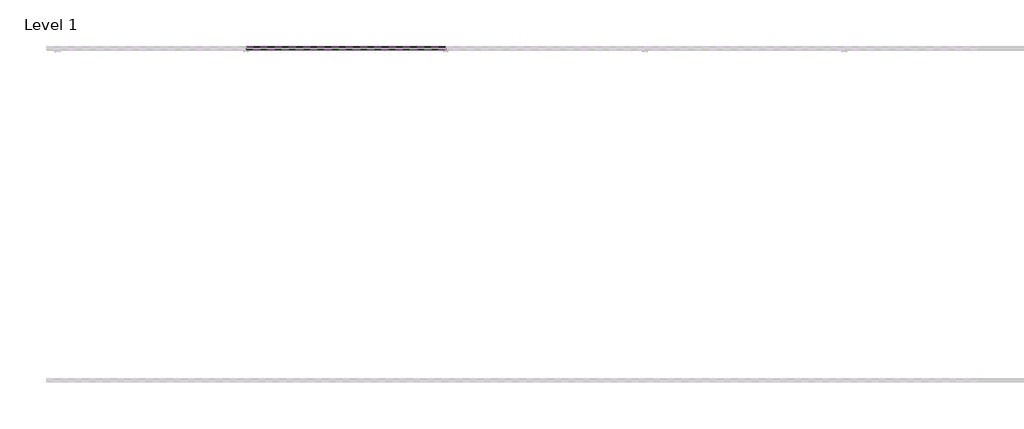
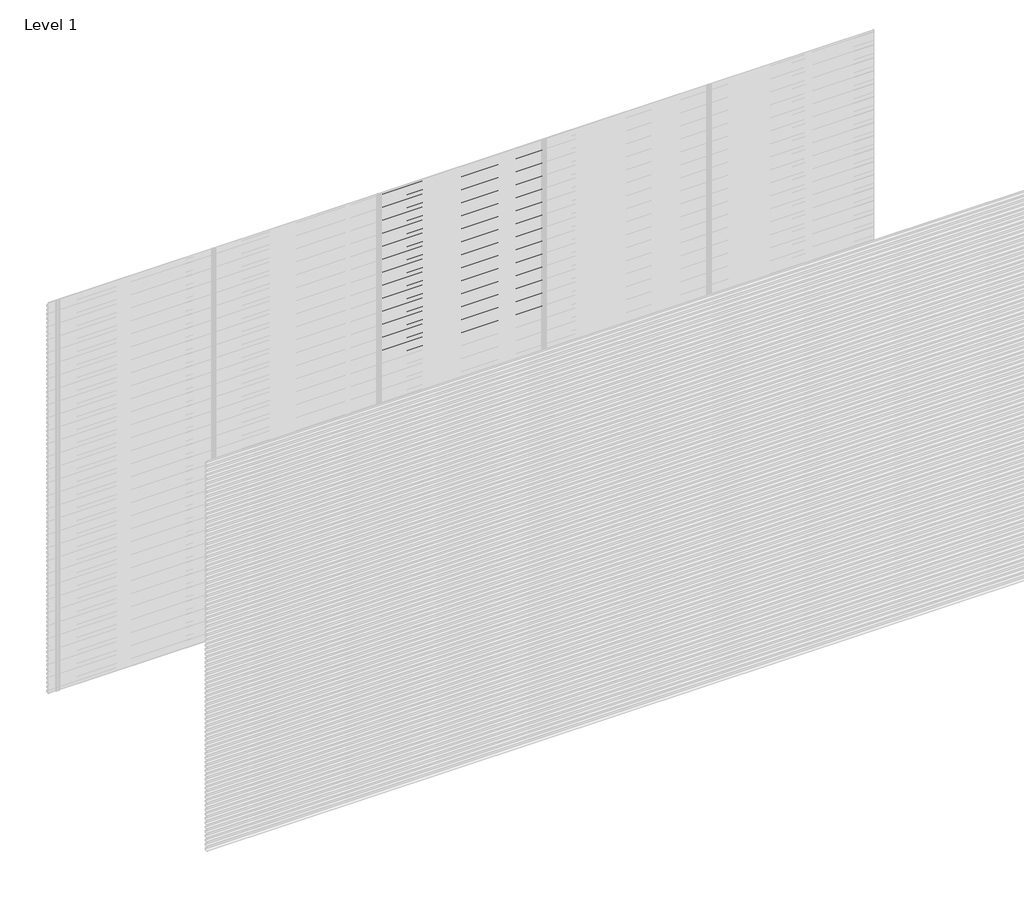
# One storey, part 74 of 77: 78 proxies.
"""IFC4 building model written with IfcOpenShell, lengths in millimetres."""

from ifc_helpers import new_model, si_unit, frame, origin, place, context, project, spatial, polyline, outline, extrude, element, save

model = new_model("IFC4")

# Units and contexts
model_context = context("Model", 3, world=origin())
ifc_project = project(units=[si_unit("LENGTHUNIT", "METRE", prefix="MILLI")], contexts=[model_context])

# Site, building, storey
site = spatial("IfcSite", under=ifc_project)
building = spatial("IfcBuilding", under=site)
storey = spatial("IfcBuildingStorey", under=building, Name="Level 1", Elevation=0.0)

# Proxies
placement = place(None, origin())
element("IfcBuildingElementProxy", 1, Name="Wall Sweeps", at=placement, inside=storey, context=model_context, shape_type="SweptSolid", body=[
    extrude(outline(polyline([(21.4, 1274.2359887), (2.0, 1285.4366691), (2.0, 1298.7), (3.0, 1298.7), (3.0, 1286.0191057), (22.4, 1274.8185105), (22.4, 1261.2185105), (21.4, 1262.7953129), (21.4, 1268.6032062), (4.0226183, 1260.5), (3.6, 1261.4063078), (21.4, 1269.7065841), (21.4, 1274.2359887)])), frame((1200.0, 0.0, 0.0), z_axis=(1.0, 0.0, 0.0), x_axis=(0.0, 1.0, 0.0)), (0.0, 0.0, 1.0), 1200.0),
])
element("IfcBuildingElementProxy", 2, Name="Wall Sweeps", at=placement, inside=storey, context=model_context, shape_type="SweptSolid", body=[
    extrude(outline(polyline([(21.4, 1240.9359887), (2.0, 1252.1366691), (2.0, 1265.4), (3.0, 1265.4), (3.0, 1252.7191057), (22.4, 1241.5185105), (22.4, 1227.9185105), (21.4, 1229.4953129), (21.4, 1235.3032062), (4.0226183, 1227.2), (3.6, 1228.1063078), (21.4, 1236.4065841), (21.4, 1240.9359887)])), frame((1200.0, 0.0, 0.0), z_axis=(1.0, 0.0, 0.0), x_axis=(0.0, 1.0, 0.0)), (0.0, 0.0, 1.0), 1200.0),
])
element("IfcBuildingElementProxy", 3, Name="Wall Sweeps", at=placement, inside=storey, context=model_context, shape_type="SweptSolid", body=[
    extrude(outline(polyline([(21.4, 1207.6359887), (2.0, 1218.8366691), (2.0, 1232.1), (3.0, 1232.1), (3.0, 1219.4191057), (22.4, 1208.2185105), (22.4, 1194.6185105), (21.4, 1196.1953129), (21.4, 1202.0032062), (4.0226183, 1193.9), (3.6, 1194.8063078), (21.4, 1203.1065841), (21.4, 1207.6359887)])), frame((1200.0, 0.0, 0.0), z_axis=(1.0, 0.0, 0.0), x_axis=(0.0, 1.0, 0.0)), (0.0, 0.0, 1.0), 1200.0),
])
element("IfcBuildingElementProxy", 4, Name="Wall Sweeps", at=placement, inside=storey, context=model_context, shape_type="SweptSolid", body=[
    extrude(outline(polyline([(21.4, 1174.3359887), (2.0, 1185.5366691), (2.0, 1198.8), (3.0, 1198.8), (3.0, 1186.1191057), (22.4, 1174.9185105), (22.4, 1161.3185105), (21.4, 1162.8953129), (21.4, 1168.7032062), (4.0226183, 1160.6), (3.6, 1161.5063078), (21.4, 1169.8065841), (21.4, 1174.3359887)])), frame((1200.0, 0.0, 0.0), z_axis=(1.0, 0.0, 0.0), x_axis=(0.0, 1.0, 0.0)), (0.0, 0.0, 1.0), 1200.0),
])
element("IfcBuildingElementProxy", 5, Name="Wall Sweeps", at=placement, inside=storey, context=model_context, shape_type="SweptSolid", body=[
    extrude(outline(polyline([(21.4, 1141.0359887), (2.0, 1152.2366691), (2.0, 1165.5), (3.0, 1165.5), (3.0, 1152.8191057), (22.4, 1141.6185105), (22.4, 1128.0185105), (21.4, 1129.5953129), (21.4, 1135.4032062), (4.0226183, 1127.3), (3.6, 1128.2063078), (21.4, 1136.5065841), (21.4, 1141.0359887)])), frame((1200.0, 0.0, 0.0), z_axis=(1.0, 0.0, 0.0), x_axis=(0.0, 1.0, 0.0)), (0.0, 0.0, 1.0), 1200.0),
])
element("IfcBuildingElementProxy", 6, Name="Wall Sweeps", at=placement, inside=storey, context=model_context, shape_type="SweptSolid", body=[
    extrude(outline(polyline([(21.4, 1107.7359887), (2.0, 1118.9366691), (2.0, 1132.2), (3.0, 1132.2), (3.0, 1119.5191057), (22.4, 1108.3185105), (22.4, 1094.7185105), (21.4, 1096.2953129), (21.4, 1102.1032062), (4.0226183, 1094.0), (3.6, 1094.9063078), (21.4, 1103.2065841), (21.4, 1107.7359887)])), frame((1200.0, 0.0, 0.0), z_axis=(1.0, 0.0, 0.0), x_axis=(0.0, 1.0, 0.0)), (0.0, 0.0, 1.0), 1200.0),
])
element("IfcBuildingElementProxy", 7, Name="Wall Sweeps", at=placement, inside=storey, context=model_context, shape_type="SweptSolid", body=[
    extrude(outline(polyline([(21.4, 1074.4359887), (2.0, 1085.6366691), (2.0, 1098.9), (3.0, 1098.9), (3.0, 1086.2191057), (22.4, 1075.0185105), (22.4, 1061.4185105), (21.4, 1062.9953129), (21.4, 1068.8032062), (4.0226183, 1060.7), (3.6, 1061.6063078), (21.4, 1069.9065841), (21.4, 1074.4359887)])), frame((1200.0, 0.0, 0.0), z_axis=(1.0, 0.0, 0.0), x_axis=(0.0, 1.0, 0.0)), (0.0, 0.0, 1.0), 1200.0),
])
element("IfcBuildingElementProxy", 8, Name="Wall Sweeps", at=placement, inside=storey, context=model_context, shape_type="SweptSolid", body=[
    extrude(outline(polyline([(21.4, 1041.1359887), (2.0, 1052.3366691), (2.0, 1065.6), (3.0, 1065.6), (3.0, 1052.9191057), (22.4, 1041.7185105), (22.4, 1028.1185105), (21.4, 1029.6953129), (21.4, 1035.5032062), (4.0226183, 1027.4), (3.6, 1028.3063078), (21.4, 1036.6065841), (21.4, 1041.1359887)])), frame((1200.0, 0.0, 0.0), z_axis=(1.0, 0.0, 0.0), x_axis=(0.0, 1.0, 0.0)), (0.0, 0.0, 1.0), 1200.0),
])
element("IfcBuildingElementProxy", 9, Name="Wall Sweeps", at=placement, inside=storey, context=model_context, shape_type="SweptSolid", body=[
    extrude(outline(polyline([(21.4, 1007.8359887), (2.0, 1019.0366691), (2.0, 1032.3), (3.0, 1032.3), (3.0, 1019.6191057), (22.4, 1008.4185105), (22.4, 994.8185105), (21.4, 996.3953129), (21.4, 1002.2032062), (4.0226183, 994.1), (3.6, 995.0063078), (21.4, 1003.3065841), (21.4, 1007.8359887)])), frame((1200.0, 0.0, 0.0), z_axis=(1.0, 0.0, 0.0), x_axis=(0.0, 1.0, 0.0)), (0.0, 0.0, 1.0), 1200.0),
])
element("IfcBuildingElementProxy", 10, Name="Wall Sweeps", at=placement, inside=storey, context=model_context, shape_type="SweptSolid", body=[
    extrude(outline(polyline([(21.4, 974.5359887), (2.0, 985.7366691), (2.0, 999.0), (3.0, 999.0), (3.0, 986.3191057), (22.4, 975.1185105), (22.4, 961.5185105), (21.4, 963.0953129), (21.4, 968.9032062), (4.0226183, 960.8), (3.6, 961.7063078), (21.4, 970.0065841), (21.4, 974.5359887)])), frame((1200.0, 0.0, 0.0), z_axis=(1.0, 0.0, 0.0), x_axis=(0.0, 1.0, 0.0)), (0.0, 0.0, 1.0), 1200.0),
])
element("IfcBuildingElementProxy", 11, Name="Wall Sweeps", at=placement, inside=storey, context=model_context, shape_type="SweptSolid", body=[
    extrude(outline(polyline([(21.4, 941.2359887), (2.0, 952.4366691), (2.0, 965.7), (3.0, 965.7), (3.0, 953.0191057), (22.4, 941.8185105), (22.4, 928.2185105), (21.4, 929.7953129), (21.4, 935.6032062), (4.0226183, 927.5), (3.6, 928.4063078), (21.4, 936.7065841), (21.4, 941.2359887)])), frame((1200.0, 0.0, 0.0), z_axis=(1.0, 0.0, 0.0), x_axis=(0.0, 1.0, 0.0)), (0.0, 0.0, 1.0), 1200.0),
])
element("IfcBuildingElementProxy", 12, Name="Wall Sweeps", at=placement, inside=storey, context=model_context, shape_type="SweptSolid", body=[
    extrude(outline(polyline([(21.4, 907.9359887), (2.0, 919.1366691), (2.0, 932.4), (3.0, 932.4), (3.0, 919.7191057), (22.4, 908.5185105), (22.4, 894.9185105), (21.4, 896.4953129), (21.4, 902.3032062), (4.0226183, 894.2), (3.6, 895.1063078), (21.4, 903.4065841), (21.4, 907.9359887)])), frame((1200.0, 0.0, 0.0), z_axis=(1.0, 0.0, 0.0), x_axis=(0.0, 1.0, 0.0)), (0.0, 0.0, 1.0), 1200.0),
])
element("IfcBuildingElementProxy", 13, Name="Wall Sweeps", at=placement, inside=storey, context=model_context, shape_type="SweptSolid", body=[
    extrude(outline(polyline([(21.4, 874.6359887), (2.0, 885.8366691), (2.0, 899.1), (3.0, 899.1), (3.0, 886.4191057), (22.4, 875.2185105), (22.4, 861.6185105), (21.4, 863.1953129), (21.4, 869.0032062), (4.0226183, 860.9), (3.6, 861.8063078), (21.4, 870.1065841), (21.4, 874.6359887)])), frame((1200.0, 0.0, 0.0), z_axis=(1.0, 0.0, 0.0), x_axis=(0.0, 1.0, 0.0)), (0.0, 0.0, 1.0), 1200.0),
])
element("IfcBuildingElementProxy", 14, Name="Wall Sweeps", at=placement, inside=storey, context=model_context, shape_type="SweptSolid", body=[
    extrude(outline(polyline([(21.4, 841.3359887), (2.0, 852.5366691), (2.0, 865.8), (3.0, 865.8), (3.0, 853.1191057), (22.4, 841.9185105), (22.4, 828.3185105), (21.4, 829.8953129), (21.4, 835.7032062), (4.0226183, 827.6), (3.6, 828.5063078), (21.4, 836.8065841), (21.4, 841.3359887)])), frame((1200.0, 0.0, 0.0), z_axis=(1.0, 0.0, 0.0), x_axis=(0.0, 1.0, 0.0)), (0.0, 0.0, 1.0), 1200.0),
])
element("IfcBuildingElementProxy", 15, Name="Wall Sweeps", at=placement, inside=storey, context=model_context, shape_type="SweptSolid", body=[
    extrude(outline(polyline([(21.4, 808.0359887), (2.0, 819.2366691), (2.0, 832.5), (3.0, 832.5), (3.0, 819.8191057), (22.4, 808.6185105), (22.4, 795.0185105), (21.4, 796.5953129), (21.4, 802.4032062), (4.0226183, 794.3), (3.6, 795.2063078), (21.4, 803.5065841), (21.4, 808.0359887)])), frame((1200.0, 0.0, 0.0), z_axis=(1.0, 0.0, 0.0), x_axis=(0.0, 1.0, 0.0)), (0.0, 0.0, 1.0), 1200.0),
])
element("IfcBuildingElementProxy", 16, Name="Wall Sweeps", at=placement, inside=storey, context=model_context, shape_type="SweptSolid", body=[
    extrude(outline(polyline([(21.4, 774.7359887), (2.0, 785.9366691), (2.0, 799.2), (3.0, 799.2), (3.0, 786.5191057), (22.4, 775.3185105), (22.4, 761.7185105), (21.4, 763.2953129), (21.4, 769.1032062), (4.0226183, 761.0), (3.6, 761.9063078), (21.4, 770.2065841), (21.4, 774.7359887)])), frame((1200.0, 0.0, 0.0), z_axis=(1.0, 0.0, 0.0), x_axis=(0.0, 1.0, 0.0)), (0.0, 0.0, 1.0), 1200.0),
])
element("IfcBuildingElementProxy", 17, Name="Wall Sweeps", at=placement, inside=storey, context=model_context, shape_type="SweptSolid", body=[
    extrude(outline(polyline([(21.4, 741.4359887), (2.0, 752.6366691), (2.0, 765.9), (3.0, 765.9), (3.0, 753.2191057), (22.4, 742.0185105), (22.4, 728.4185105), (21.4, 729.9953129), (21.4, 735.8032062), (4.0226183, 727.7), (3.6, 728.6063078), (21.4, 736.9065841), (21.4, 741.4359887)])), frame((1200.0, 0.0, 0.0), z_axis=(1.0, 0.0, 0.0), x_axis=(0.0, 1.0, 0.0)), (0.0, 0.0, 1.0), 1200.0),
])
element("IfcBuildingElementProxy", 18, Name="Wall Sweeps", at=placement, inside=storey, context=model_context, shape_type="SweptSolid", body=[
    extrude(outline(polyline([(21.4, 708.1359887), (2.0, 719.3366691), (2.0, 732.6), (3.0, 732.6), (3.0, 719.9191057), (22.4, 708.7185105), (22.4, 695.1185105), (21.4, 696.6953129), (21.4, 702.5032062), (4.0226183, 694.4), (3.6, 695.3063078), (21.4, 703.6065841), (21.4, 708.1359887)])), frame((1200.0, 0.0, 0.0), z_axis=(1.0, 0.0, 0.0), x_axis=(0.0, 1.0, 0.0)), (0.0, 0.0, 1.0), 1200.0),
])
element("IfcBuildingElementProxy", 19, Name="Wall Sweeps", at=placement, inside=storey, context=model_context, shape_type="SweptSolid", body=[
    extrude(outline(polyline([(21.4, 674.8359887), (2.0, 686.0366691), (2.0, 699.3), (3.0, 699.3), (3.0, 686.6191057), (22.4, 675.4185105), (22.4, 661.8185105), (21.4, 663.3953129), (21.4, 669.2032062), (4.0226183, 661.1), (3.6, 662.0063078), (21.4, 670.3065841), (21.4, 674.8359887)])), frame((1200.0, 0.0, 0.0), z_axis=(1.0, 0.0, 0.0), x_axis=(0.0, 1.0, 0.0)), (0.0, 0.0, 1.0), 1200.0),
])
element("IfcBuildingElementProxy", 20, Name="Wall Sweeps", at=placement, inside=storey, context=model_context, shape_type="SweptSolid", body=[
    extrude(outline(polyline([(21.4, 641.5359887), (2.0, 652.7366691), (2.0, 666.0), (3.0, 666.0), (3.0, 653.3191057), (22.4, 642.1185105), (22.4, 628.5185105), (21.4, 630.0953129), (21.4, 635.9032062), (4.0226183, 627.8), (3.6, 628.7063078), (21.4, 637.0065841), (21.4, 641.5359887)])), frame((1200.0, 0.0, 0.0), z_axis=(1.0, 0.0, 0.0), x_axis=(0.0, 1.0, 0.0)), (0.0, 0.0, 1.0), 1200.0),
])
element("IfcBuildingElementProxy", 21, Name="Wall Sweeps", at=placement, inside=storey, context=model_context, shape_type="SweptSolid", body=[
    extrude(outline(polyline([(21.4, 608.2359887), (2.0, 619.4366691), (2.0, 632.7), (3.0, 632.7), (3.0, 620.0191057), (22.4, 608.8185105), (22.4, 595.2185105), (21.4, 596.7953129), (21.4, 602.6032062), (4.0226183, 594.5), (3.6, 595.4063078), (21.4, 603.7065841), (21.4, 608.2359887)])), frame((1200.0, 0.0, 0.0), z_axis=(1.0, 0.0, 0.0), x_axis=(0.0, 1.0, 0.0)), (0.0, 0.0, 1.0), 1200.0),
])
element("IfcBuildingElementProxy", 22, Name="Wall Sweeps", at=placement, inside=storey, context=model_context, shape_type="SweptSolid", body=[
    extrude(outline(polyline([(21.4, 574.9359887), (2.0, 586.1366691), (2.0, 599.4), (3.0, 599.4), (3.0, 586.7191057), (22.4, 575.5185105), (22.4, 561.9185105), (21.4, 563.4953129), (21.4, 569.3032062), (4.0226183, 561.2), (3.6, 562.1063078), (21.4, 570.4065841), (21.4, 574.9359887)])), frame((1200.0, 0.0, 0.0), z_axis=(1.0, 0.0, 0.0), x_axis=(0.0, 1.0, 0.0)), (0.0, 0.0, 1.0), 1200.0),
])
element("IfcBuildingElementProxy", 23, Name="Wall Sweeps", at=placement, inside=storey, context=model_context, shape_type="SweptSolid", body=[
    extrude(outline(polyline([(21.4, 541.6359887), (2.0, 552.8366691), (2.0, 566.1), (3.0, 566.1), (3.0, 553.4191057), (22.4, 542.2185105), (22.4, 528.6185105), (21.4, 530.1953129), (21.4, 536.0032062), (4.0226183, 527.9), (3.6, 528.8063078), (21.4, 537.1065841), (21.4, 541.6359887)])), frame((1200.0, 0.0, 0.0), z_axis=(1.0, 0.0, 0.0), x_axis=(0.0, 1.0, 0.0)), (0.0, 0.0, 1.0), 1200.0),
])
element("IfcBuildingElementProxy", 24, Name="Wall Sweeps", at=placement, inside=storey, context=model_context, shape_type="SweptSolid", body=[
    extrude(outline(polyline([(21.4, 508.3359887), (2.0, 519.5366691), (2.0, 532.8), (3.0, 532.8), (3.0, 520.1191057), (22.4, 508.9185105), (22.4, 495.3185105), (21.4, 496.8953129), (21.4, 502.7032062), (4.0226183, 494.6), (3.6, 495.5063078), (21.4, 503.8065841), (21.4, 508.3359887)])), frame((1200.0, 0.0, 0.0), z_axis=(1.0, 0.0, 0.0), x_axis=(0.0, 1.0, 0.0)), (0.0, 0.0, 1.0), 1200.0),
])
element("IfcBuildingElementProxy", 25, Name="Wall Sweeps", at=placement, inside=storey, context=model_context, shape_type="SweptSolid", body=[
    extrude(outline(polyline([(21.4, 475.0359887), (2.0, 486.2366691), (2.0, 499.5), (3.0, 499.5), (3.0, 486.8191057), (22.4, 475.6185105), (22.4, 462.0185105), (21.4, 463.5953129), (21.4, 469.4032062), (4.0226183, 461.3), (3.6, 462.2063078), (21.4, 470.5065841), (21.4, 475.0359887)])), frame((1200.0, 0.0, 0.0), z_axis=(1.0, 0.0, 0.0), x_axis=(0.0, 1.0, 0.0)), (0.0, 0.0, 1.0), 1200.0),
])
element("IfcBuildingElementProxy", 26, Name="Wall Sweeps", at=placement, inside=storey, context=model_context, shape_type="SweptSolid", body=[
    extrude(outline(polyline([(21.4, 441.7359887), (2.0, 452.9366691), (2.0, 466.2), (3.0, 466.2), (3.0, 453.5191057), (22.4, 442.3185105), (22.4, 428.7185105), (21.4, 430.2953129), (21.4, 436.1032062), (4.0226183, 428.0), (3.6, 428.9063078), (21.4, 437.2065841), (21.4, 441.7359887)])), frame((1200.0, 0.0, 0.0), z_axis=(1.0, 0.0, 0.0), x_axis=(0.0, 1.0, 0.0)), (0.0, 0.0, 1.0), 1200.0),
])
element("IfcBuildingElementProxy", 27, Name="Wall Sweeps", at=placement, inside=storey, context=model_context, shape_type="SweptSolid", body=[
    extrude(outline(polyline([(21.4, 408.4359887), (2.0, 419.6366691), (2.0, 432.9), (3.0, 432.9), (3.0, 420.2191057), (22.4, 409.0185105), (22.4, 395.4185105), (21.4, 396.9953129), (21.4, 402.8032062), (4.0226183, 394.7), (3.6, 395.6063078), (21.4, 403.9065841), (21.4, 408.4359887)])), frame((1200.0, 0.0, 0.0), z_axis=(1.0, 0.0, 0.0), x_axis=(0.0, 1.0, 0.0)), (0.0, 0.0, 1.0), 1200.0),
])
element("IfcBuildingElementProxy", 28, Name="Wall Sweeps", at=placement, inside=storey, context=model_context, shape_type="SweptSolid", body=[
    extrude(outline(polyline([(21.4, 375.1359887), (2.0, 386.3366691), (2.0, 399.6), (3.0, 399.6), (3.0, 386.9191057), (22.4, 375.7185105), (22.4, 362.1185105), (21.4, 363.6953129), (21.4, 369.5032062), (4.0226183, 361.4), (3.6, 362.3063078), (21.4, 370.6065841), (21.4, 375.1359887)])), frame((1200.0, 0.0, 0.0), z_axis=(1.0, 0.0, 0.0), x_axis=(0.0, 1.0, 0.0)), (0.0, 0.0, 1.0), 1200.0),
])
element("IfcBuildingElementProxy", 29, Name="Wall Sweeps", at=placement, inside=storey, context=model_context, shape_type="SweptSolid", body=[
    extrude(outline(polyline([(21.4, 341.8359887), (2.0, 353.0366691), (2.0, 366.3), (3.0, 366.3), (3.0, 353.6191057), (22.4, 342.4185105), (22.4, 328.8185105), (21.4, 330.3953129), (21.4, 336.2032062), (4.0226183, 328.1), (3.6, 329.0063078), (21.4, 337.3065841), (21.4, 341.8359887)])), frame((1200.0, 0.0, 0.0), z_axis=(1.0, 0.0, 0.0), x_axis=(0.0, 1.0, 0.0)), (0.0, 0.0, 1.0), 1200.0),
])
element("IfcBuildingElementProxy", 30, Name="Wall Sweeps", at=placement, inside=storey, context=model_context, shape_type="SweptSolid", body=[
    extrude(outline(polyline([(21.4, 308.5359887), (2.0, 319.7366691), (2.0, 333.0), (3.0, 333.0), (3.0, 320.3191057), (22.4, 309.1185105), (22.4, 295.5185105), (21.4, 297.0953129), (21.4, 302.9032062), (4.0226183, 294.8), (3.6, 295.7063078), (21.4, 304.0065841), (21.4, 308.5359887)])), frame((1200.0, 0.0, 0.0), z_axis=(1.0, 0.0, 0.0), x_axis=(0.0, 1.0, 0.0)), (0.0, 0.0, 1.0), 1200.0),
])
element("IfcBuildingElementProxy", 31, Name="Wall Sweeps", at=placement, inside=storey, context=model_context, shape_type="SweptSolid", body=[
    extrude(outline(polyline([(21.4, 275.2359887), (2.0, 286.4366691), (2.0, 299.7), (3.0, 299.7), (3.0, 287.0191057), (22.4, 275.8185105), (22.4, 262.2185105), (21.4, 263.7953129), (21.4, 269.6032062), (4.0226183, 261.5), (3.6, 262.4063078), (21.4, 270.7065841), (21.4, 275.2359887)])), frame((1200.0, 0.0, 0.0), z_axis=(1.0, 0.0, 0.0), x_axis=(0.0, 1.0, 0.0)), (0.0, 0.0, 1.0), 1200.0),
])
element("IfcBuildingElementProxy", 32, Name="Wall Sweeps", at=placement, inside=storey, context=model_context, shape_type="SweptSolid", body=[
    extrude(outline(polyline([(21.4, 241.9359887), (2.0, 253.1366691), (2.0, 266.4), (3.0, 266.4), (3.0, 253.7191057), (22.4, 242.5185105), (22.4, 228.9185105), (21.4, 230.4953129), (21.4, 236.3032062), (4.0226183, 228.2), (3.6, 229.1063078), (21.4, 237.4065841), (21.4, 241.9359887)])), frame((1200.0, 0.0, 0.0), z_axis=(1.0, 0.0, 0.0), x_axis=(0.0, 1.0, 0.0)), (0.0, 0.0, 1.0), 1200.0),
])
element("IfcBuildingElementProxy", 33, Name="Wall Sweeps", at=placement, inside=storey, context=model_context, shape_type="SweptSolid", body=[
    extrude(outline(polyline([(21.4, 208.6359887), (2.0, 219.8366691), (2.0, 233.1), (3.0, 233.1), (3.0, 220.4191057), (22.4, 209.2185105), (22.4, 195.6185105), (21.4, 197.1953129), (21.4, 203.0032062), (4.0226183, 194.9), (3.6, 195.8063078), (21.4, 204.1065841), (21.4, 208.6359887)])), frame((1200.0, 0.0, 0.0), z_axis=(1.0, 0.0, 0.0), x_axis=(0.0, 1.0, 0.0)), (0.0, 0.0, 1.0), 1200.0),
])
element("IfcBuildingElementProxy", 34, Name="Wall Sweeps", at=placement, inside=storey, context=model_context, shape_type="SweptSolid", body=[
    extrude(outline(polyline([(21.4, 175.3359887), (2.0, 186.5366691), (2.0, 199.8), (3.0, 199.8), (3.0, 187.1191057), (22.4, 175.9185105), (22.4, 162.3185105), (21.4, 163.8953129), (21.4, 169.7032062), (4.0226183, 161.6), (3.6, 162.5063078), (21.4, 170.8065841), (21.4, 175.3359887)])), frame((1200.0, 0.0, 0.0), z_axis=(1.0, 0.0, 0.0), x_axis=(0.0, 1.0, 0.0)), (0.0, 0.0, 1.0), 1200.0),
])
element("IfcBuildingElementProxy", 35, Name="Wall Sweeps", at=placement, inside=storey, context=model_context, shape_type="SweptSolid", body=[
    extrude(outline(polyline([(21.4, 142.0359887), (2.0, 153.2366691), (2.0, 166.5), (3.0, 166.5), (3.0, 153.8191057), (22.4, 142.6185105), (22.4, 129.0185105), (21.4, 130.5953129), (21.4, 136.4032062), (4.0226183, 128.3), (3.6, 129.2063078), (21.4, 137.5065841), (21.4, 142.0359887)])), frame((1200.0, 0.0, 0.0), z_axis=(1.0, 0.0, 0.0), x_axis=(0.0, 1.0, 0.0)), (0.0, 0.0, 1.0), 1200.0),
])
element("IfcBuildingElementProxy", 36, Name="Wall Sweeps", at=placement, inside=storey, context=model_context, shape_type="SweptSolid", body=[
    extrude(outline(polyline([(21.4, 108.7359887), (2.0, 119.9366691), (2.0, 133.2), (3.0, 133.2), (3.0, 120.5191057), (22.4, 109.3185105), (22.4, 95.7185105), (21.4, 97.2953129), (21.4, 103.1032062), (4.0226183, 95.0), (3.6, 95.9063078), (21.4, 104.2065841), (21.4, 108.7359887)])), frame((1200.0, 0.0, 0.0), z_axis=(1.0, 0.0, 0.0), x_axis=(0.0, 1.0, 0.0)), (0.0, 0.0, 1.0), 1200.0),
])
element("IfcBuildingElementProxy", 37, Name="Wall Sweeps", at=placement, inside=storey, context=model_context, shape_type="SweptSolid", body=[
    extrude(outline(polyline([(21.4, 75.4359887), (2.0, 86.6366691), (2.0, 99.9), (3.0, 99.9), (3.0, 87.2191057), (22.4, 76.0185105), (22.4, 62.4185105), (21.4, 63.9953129), (21.4, 69.8032062), (4.0226183, 61.7), (3.6, 62.6063078), (21.4, 70.9065841), (21.4, 75.4359887)])), frame((1200.0, 0.0, 0.0), z_axis=(1.0, 0.0, 0.0), x_axis=(0.0, 1.0, 0.0)), (0.0, 0.0, 1.0), 1200.0),
])
element("IfcBuildingElementProxy", 38, Name="Wall Sweeps", at=placement, inside=storey, context=model_context, shape_type="SweptSolid", body=[
    extrude(outline(polyline([(21.4, 42.1359887), (2.0, 53.3366691), (2.0, 66.6), (3.0, 66.6), (3.0, 53.9191057), (22.4, 42.7185105), (22.4, 29.1185105), (21.4, 30.6953129), (21.4, 36.5032062), (4.0226183, 28.4), (3.6, 29.3063078), (21.4, 37.6065841), (21.4, 42.1359887)])), frame((1200.0, 0.0, 0.0), z_axis=(1.0, 0.0, 0.0), x_axis=(0.0, 1.0, 0.0)), (0.0, 0.0, 1.0), 1200.0),
])
element("IfcBuildingElementProxy", 39, Name="Wall Sweeps", at=placement, inside=storey, context=model_context, shape_type="SweptSolid", body=[
    extrude(outline(polyline([(21.4, 8.8359887), (2.0, 20.0366691), (2.0, 33.3), (3.0, 33.3), (3.0, 20.6191057), (22.4, 9.4185105), (22.4, -4.1814895), (21.4, -2.6046871), (21.4, 3.2032062), (4.0226183, -4.9), (3.6, -3.9936922), (21.4, 4.3065841), (21.4, 8.8359887)])), frame((1200.0, 0.0, 0.0), z_axis=(1.0, 0.0, 0.0), x_axis=(0.0, 1.0, 0.0)), (0.0, 0.0, 1.0), 1200.0),
])
element("IfcBuildingElementProxy", 40, Name="Wall Sweeps", at=placement, inside=storey, context=model_context, shape_type="SweptSolid", body=[
    extrude(outline(polyline([(21.4, 2972.5359887), (2.0, 2983.7366691), (2.0, 2997.0), (3.0, 2997.0), (3.0, 2984.3191057), (22.4, 2973.1185105), (22.4, 2959.5185105), (21.4, 2961.0953129), (21.4, 2966.9032062), (4.0226183, 2958.8), (3.6, 2959.7063078), (21.4, 2968.0065841), (21.4, 2972.5359887)])), frame((2400.0, 0.0, 0.0), z_axis=(1.0, 0.0, 0.0), x_axis=(0.0, 1.0, 0.0)), (0.0, 0.0, 1.0), 1200.0),
])
element("IfcBuildingElementProxy", 41, Name="Wall Sweeps", at=placement, inside=storey, context=model_context, shape_type="SweptSolid", body=[
    extrude(outline(polyline([(21.4, 2939.2359887), (2.0, 2950.4366691), (2.0, 2963.7), (3.0, 2963.7), (3.0, 2951.0191057), (22.4, 2939.8185105), (22.4, 2926.2185105), (21.4, 2927.7953129), (21.4, 2933.6032062), (4.0226183, 2925.5), (3.6, 2926.4063078), (21.4, 2934.7065841), (21.4, 2939.2359887)])), frame((2400.0, 0.0, 0.0), z_axis=(1.0, 0.0, 0.0), x_axis=(0.0, 1.0, 0.0)), (0.0, 0.0, 1.0), 1200.0),
])
element("IfcBuildingElementProxy", 42, Name="Wall Sweeps", at=placement, inside=storey, context=model_context, shape_type="SweptSolid", body=[
    extrude(outline(polyline([(21.4, 2905.9359887), (2.0, 2917.1366691), (2.0, 2930.4), (3.0, 2930.4), (3.0, 2917.7191057), (22.4, 2906.5185105), (22.4, 2892.9185105), (21.4, 2894.4953129), (21.4, 2900.3032062), (4.0226183, 2892.2), (3.6, 2893.1063078), (21.4, 2901.4065841), (21.4, 2905.9359887)])), frame((2400.0, 0.0, 0.0), z_axis=(1.0, 0.0, 0.0), x_axis=(0.0, 1.0, 0.0)), (0.0, 0.0, 1.0), 1200.0),
])
element("IfcBuildingElementProxy", 43, Name="Wall Sweeps", at=placement, inside=storey, context=model_context, shape_type="SweptSolid", body=[
    extrude(outline(polyline([(21.4, 2872.6359887), (2.0, 2883.8366691), (2.0, 2897.1), (3.0, 2897.1), (3.0, 2884.4191057), (22.4, 2873.2185105), (22.4, 2859.6185105), (21.4, 2861.1953129), (21.4, 2867.0032062), (4.0226183, 2858.9), (3.6, 2859.8063078), (21.4, 2868.1065841), (21.4, 2872.6359887)])), frame((2400.0, 0.0, 0.0), z_axis=(1.0, 0.0, 0.0), x_axis=(0.0, 1.0, 0.0)), (0.0, 0.0, 1.0), 1200.0),
])
element("IfcBuildingElementProxy", 44, Name="Wall Sweeps", at=placement, inside=storey, context=model_context, shape_type="SweptSolid", body=[
    extrude(outline(polyline([(21.4, 2839.3359887), (2.0, 2850.5366691), (2.0, 2863.8), (3.0, 2863.8), (3.0, 2851.1191057), (22.4, 2839.9185105), (22.4, 2826.3185105), (21.4, 2827.8953129), (21.4, 2833.7032062), (4.0226183, 2825.6), (3.6, 2826.5063078), (21.4, 2834.8065841), (21.4, 2839.3359887)])), frame((2400.0, 0.0, 0.0), z_axis=(1.0, 0.0, 0.0), x_axis=(0.0, 1.0, 0.0)), (0.0, 0.0, 1.0), 1200.0),
])
element("IfcBuildingElementProxy", 45, Name="Wall Sweeps", at=placement, inside=storey, context=model_context, shape_type="SweptSolid", body=[
    extrude(outline(polyline([(21.4, 2806.0359887), (2.0, 2817.2366691), (2.0, 2830.5), (3.0, 2830.5), (3.0, 2817.8191057), (22.4, 2806.6185105), (22.4, 2793.0185105), (21.4, 2794.5953129), (21.4, 2800.4032062), (4.0226183, 2792.3), (3.6, 2793.2063078), (21.4, 2801.5065841), (21.4, 2806.0359887)])), frame((2400.0, 0.0, 0.0), z_axis=(1.0, 0.0, 0.0), x_axis=(0.0, 1.0, 0.0)), (0.0, 0.0, 1.0), 1200.0),
])
element("IfcBuildingElementProxy", 46, Name="Wall Sweeps", at=placement, inside=storey, context=model_context, shape_type="SweptSolid", body=[
    extrude(outline(polyline([(21.4, 2772.7359887), (2.0, 2783.9366691), (2.0, 2797.2), (3.0, 2797.2), (3.0, 2784.5191057), (22.4, 2773.3185105), (22.4, 2759.7185105), (21.4, 2761.2953129), (21.4, 2767.1032062), (4.0226183, 2759.0), (3.6, 2759.9063078), (21.4, 2768.2065841), (21.4, 2772.7359887)])), frame((2400.0, 0.0, 0.0), z_axis=(1.0, 0.0, 0.0), x_axis=(0.0, 1.0, 0.0)), (0.0, 0.0, 1.0), 1200.0),
])
element("IfcBuildingElementProxy", 47, Name="Wall Sweeps", at=placement, inside=storey, context=model_context, shape_type="SweptSolid", body=[
    extrude(outline(polyline([(21.4, 2739.4359887), (2.0, 2750.6366691), (2.0, 2763.9), (3.0, 2763.9), (3.0, 2751.2191057), (22.4, 2740.0185105), (22.4, 2726.4185105), (21.4, 2727.9953129), (21.4, 2733.8032062), (4.0226183, 2725.7), (3.6, 2726.6063078), (21.4, 2734.9065841), (21.4, 2739.4359887)])), frame((2400.0, 0.0, 0.0), z_axis=(1.0, 0.0, 0.0), x_axis=(0.0, 1.0, 0.0)), (0.0, 0.0, 1.0), 1200.0),
])
element("IfcBuildingElementProxy", 48, Name="Wall Sweeps", at=placement, inside=storey, context=model_context, shape_type="SweptSolid", body=[
    extrude(outline(polyline([(21.4, 2706.1359887), (2.0, 2717.3366691), (2.0, 2730.6), (3.0, 2730.6), (3.0, 2717.9191057), (22.4, 2706.7185105), (22.4, 2693.1185105), (21.4, 2694.6953129), (21.4, 2700.5032062), (4.0226183, 2692.4), (3.6, 2693.3063078), (21.4, 2701.6065841), (21.4, 2706.1359887)])), frame((2400.0, 0.0, 0.0), z_axis=(1.0, 0.0, 0.0), x_axis=(0.0, 1.0, 0.0)), (0.0, 0.0, 1.0), 1200.0),
])
element("IfcBuildingElementProxy", 49, Name="Wall Sweeps", at=placement, inside=storey, context=model_context, shape_type="SweptSolid", body=[
    extrude(outline(polyline([(21.4, 2672.8359887), (2.0, 2684.0366691), (2.0, 2697.3), (3.0, 2697.3), (3.0, 2684.6191057), (22.4, 2673.4185105), (22.4, 2659.8185105), (21.4, 2661.3953129), (21.4, 2667.2032062), (4.0226183, 2659.1), (3.6, 2660.0063078), (21.4, 2668.3065841), (21.4, 2672.8359887)])), frame((2400.0, 0.0, 0.0), z_axis=(1.0, 0.0, 0.0), x_axis=(0.0, 1.0, 0.0)), (0.0, 0.0, 1.0), 1200.0),
])
element("IfcBuildingElementProxy", 50, Name="Wall Sweeps", at=placement, inside=storey, context=model_context, shape_type="SweptSolid", body=[
    extrude(outline(polyline([(21.4, 2639.5359887), (2.0, 2650.7366691), (2.0, 2664.0), (3.0, 2664.0), (3.0, 2651.3191057), (22.4, 2640.1185105), (22.4, 2626.5185105), (21.4, 2628.0953129), (21.4, 2633.9032062), (4.0226183, 2625.8), (3.6, 2626.7063078), (21.4, 2635.0065841), (21.4, 2639.5359887)])), frame((2400.0, 0.0, 0.0), z_axis=(1.0, 0.0, 0.0), x_axis=(0.0, 1.0, 0.0)), (0.0, 0.0, 1.0), 1200.0),
])
element("IfcBuildingElementProxy", 51, Name="Wall Sweeps", at=placement, inside=storey, context=model_context, shape_type="SweptSolid", body=[
    extrude(outline(polyline([(21.4, 2606.2359887), (2.0, 2617.4366691), (2.0, 2630.7), (3.0, 2630.7), (3.0, 2618.0191057), (22.4, 2606.8185105), (22.4, 2593.2185105), (21.4, 2594.7953129), (21.4, 2600.6032062), (4.0226183, 2592.5), (3.6, 2593.4063078), (21.4, 2601.7065841), (21.4, 2606.2359887)])), frame((2400.0, 0.0, 0.0), z_axis=(1.0, 0.0, 0.0), x_axis=(0.0, 1.0, 0.0)), (0.0, 0.0, 1.0), 1200.0),
])
element("IfcBuildingElementProxy", 52, Name="Wall Sweeps", at=placement, inside=storey, context=model_context, shape_type="SweptSolid", body=[
    extrude(outline(polyline([(21.4, 2572.9359887), (2.0, 2584.1366691), (2.0, 2597.4), (3.0, 2597.4), (3.0, 2584.7191057), (22.4, 2573.5185105), (22.4, 2559.9185105), (21.4, 2561.4953129), (21.4, 2567.3032062), (4.0226183, 2559.2), (3.6, 2560.1063078), (21.4, 2568.4065841), (21.4, 2572.9359887)])), frame((2400.0, 0.0, 0.0), z_axis=(1.0, 0.0, 0.0), x_axis=(0.0, 1.0, 0.0)), (0.0, 0.0, 1.0), 1200.0),
])
element("IfcBuildingElementProxy", 53, Name="Wall Sweeps", at=placement, inside=storey, context=model_context, shape_type="SweptSolid", body=[
    extrude(outline(polyline([(21.4, 2539.6359887), (2.0, 2550.8366691), (2.0, 2564.1), (3.0, 2564.1), (3.0, 2551.4191057), (22.4, 2540.2185105), (22.4, 2526.6185105), (21.4, 2528.1953129), (21.4, 2534.0032062), (4.0226183, 2525.9), (3.6, 2526.8063078), (21.4, 2535.1065841), (21.4, 2539.6359887)])), frame((2400.0, 0.0, 0.0), z_axis=(1.0, 0.0, 0.0), x_axis=(0.0, 1.0, 0.0)), (0.0, 0.0, 1.0), 1200.0),
])
element("IfcBuildingElementProxy", 54, Name="Wall Sweeps", at=placement, inside=storey, context=model_context, shape_type="SweptSolid", body=[
    extrude(outline(polyline([(21.4, 2506.3359887), (2.0, 2517.5366691), (2.0, 2530.8), (3.0, 2530.8), (3.0, 2518.1191057), (22.4, 2506.9185105), (22.4, 2493.3185105), (21.4, 2494.8953129), (21.4, 2500.7032062), (4.0226183, 2492.6), (3.6, 2493.5063078), (21.4, 2501.8065841), (21.4, 2506.3359887)])), frame((2400.0, 0.0, 0.0), z_axis=(1.0, 0.0, 0.0), x_axis=(0.0, 1.0, 0.0)), (0.0, 0.0, 1.0), 1200.0),
])
element("IfcBuildingElementProxy", 55, Name="Wall Sweeps", at=placement, inside=storey, context=model_context, shape_type="SweptSolid", body=[
    extrude(outline(polyline([(21.4, 2473.0359887), (2.0, 2484.2366691), (2.0, 2497.5), (3.0, 2497.5), (3.0, 2484.8191057), (22.4, 2473.6185105), (22.4, 2460.0185105), (21.4, 2461.5953129), (21.4, 2467.4032062), (4.0226183, 2459.3), (3.6, 2460.2063078), (21.4, 2468.5065841), (21.4, 2473.0359887)])), frame((2400.0, 0.0, 0.0), z_axis=(1.0, 0.0, 0.0), x_axis=(0.0, 1.0, 0.0)), (0.0, 0.0, 1.0), 1200.0),
])
element("IfcBuildingElementProxy", 56, Name="Wall Sweeps", at=placement, inside=storey, context=model_context, shape_type="SweptSolid", body=[
    extrude(outline(polyline([(21.4, 2439.7359887), (2.0, 2450.9366691), (2.0, 2464.2), (3.0, 2464.2), (3.0, 2451.5191057), (22.4, 2440.3185105), (22.4, 2426.7185105), (21.4, 2428.2953129), (21.4, 2434.1032062), (4.0226183, 2426.0), (3.6, 2426.9063078), (21.4, 2435.2065841), (21.4, 2439.7359887)])), frame((2400.0, 0.0, 0.0), z_axis=(1.0, 0.0, 0.0), x_axis=(0.0, 1.0, 0.0)), (0.0, 0.0, 1.0), 1200.0),
])
element("IfcBuildingElementProxy", 57, Name="Wall Sweeps", at=placement, inside=storey, context=model_context, shape_type="SweptSolid", body=[
    extrude(outline(polyline([(21.4, 2406.4359887), (2.0, 2417.6366691), (2.0, 2430.9), (3.0, 2430.9), (3.0, 2418.2191057), (22.4, 2407.0185105), (22.4, 2393.4185105), (21.4, 2394.9953129), (21.4, 2400.8032062), (4.0226183, 2392.7), (3.6, 2393.6063078), (21.4, 2401.9065841), (21.4, 2406.4359887)])), frame((2400.0, 0.0, 0.0), z_axis=(1.0, 0.0, 0.0), x_axis=(0.0, 1.0, 0.0)), (0.0, 0.0, 1.0), 1200.0),
])
element("IfcBuildingElementProxy", 58, Name="Wall Sweeps", at=placement, inside=storey, context=model_context, shape_type="SweptSolid", body=[
    extrude(outline(polyline([(21.4, 2373.1359887), (2.0, 2384.3366691), (2.0, 2397.6), (3.0, 2397.6), (3.0, 2384.9191057), (22.4, 2373.7185105), (22.4, 2360.1185105), (21.4, 2361.6953129), (21.4, 2367.5032062), (4.0226183, 2359.4), (3.6, 2360.3063078), (21.4, 2368.6065841), (21.4, 2373.1359887)])), frame((2400.0, 0.0, 0.0), z_axis=(1.0, 0.0, 0.0), x_axis=(0.0, 1.0, 0.0)), (0.0, 0.0, 1.0), 1200.0),
])
element("IfcBuildingElementProxy", 59, Name="Wall Sweeps", at=placement, inside=storey, context=model_context, shape_type="SweptSolid", body=[
    extrude(outline(polyline([(21.4, 2339.8359887), (2.0, 2351.0366691), (2.0, 2364.3), (3.0, 2364.3), (3.0, 2351.6191057), (22.4, 2340.4185105), (22.4, 2326.8185105), (21.4, 2328.3953129), (21.4, 2334.2032062), (4.0226183, 2326.1), (3.6, 2327.0063078), (21.4, 2335.3065841), (21.4, 2339.8359887)])), frame((2400.0, 0.0, 0.0), z_axis=(1.0, 0.0, 0.0), x_axis=(0.0, 1.0, 0.0)), (0.0, 0.0, 1.0), 1200.0),
])
element("IfcBuildingElementProxy", 60, Name="Wall Sweeps", at=placement, inside=storey, context=model_context, shape_type="SweptSolid", body=[
    extrude(outline(polyline([(21.4, 2306.5359887), (2.0, 2317.7366691), (2.0, 2331.0), (3.0, 2331.0), (3.0, 2318.3191057), (22.4, 2307.1185105), (22.4, 2293.5185105), (21.4, 2295.0953129), (21.4, 2300.9032062), (4.0226183, 2292.8), (3.6, 2293.7063078), (21.4, 2302.0065841), (21.4, 2306.5359887)])), frame((2400.0, 0.0, 0.0), z_axis=(1.0, 0.0, 0.0), x_axis=(0.0, 1.0, 0.0)), (0.0, 0.0, 1.0), 1200.0),
])
element("IfcBuildingElementProxy", 61, Name="Wall Sweeps", at=placement, inside=storey, context=model_context, shape_type="SweptSolid", body=[
    extrude(outline(polyline([(21.4, 2273.2359887), (2.0, 2284.4366691), (2.0, 2297.7), (3.0, 2297.7), (3.0, 2285.0191057), (22.4, 2273.8185105), (22.4, 2260.2185105), (21.4, 2261.7953129), (21.4, 2267.6032062), (4.0226183, 2259.5), (3.6, 2260.4063078), (21.4, 2268.7065841), (21.4, 2273.2359887)])), frame((2400.0, 0.0, 0.0), z_axis=(1.0, 0.0, 0.0), x_axis=(0.0, 1.0, 0.0)), (0.0, 0.0, 1.0), 1200.0),
])
element("IfcBuildingElementProxy", 62, Name="Wall Sweeps", at=placement, inside=storey, context=model_context, shape_type="SweptSolid", body=[
    extrude(outline(polyline([(21.4, 2239.9359887), (2.0, 2251.1366691), (2.0, 2264.4), (3.0, 2264.4), (3.0, 2251.7191057), (22.4, 2240.5185105), (22.4, 2226.9185105), (21.4, 2228.4953129), (21.4, 2234.3032062), (4.0226183, 2226.2), (3.6, 2227.1063078), (21.4, 2235.4065841), (21.4, 2239.9359887)])), frame((2400.0, 0.0, 0.0), z_axis=(1.0, 0.0, 0.0), x_axis=(0.0, 1.0, 0.0)), (0.0, 0.0, 1.0), 1200.0),
])
element("IfcBuildingElementProxy", 63, Name="Wall Sweeps", at=placement, inside=storey, context=model_context, shape_type="SweptSolid", body=[
    extrude(outline(polyline([(21.4, 2206.6359887), (2.0, 2217.8366691), (2.0, 2231.1), (3.0, 2231.1), (3.0, 2218.4191057), (22.4, 2207.2185105), (22.4, 2193.6185105), (21.4, 2195.1953129), (21.4, 2201.0032062), (4.0226183, 2192.9), (3.6, 2193.8063078), (21.4, 2202.1065841), (21.4, 2206.6359887)])), frame((2400.0, 0.0, 0.0), z_axis=(1.0, 0.0, 0.0), x_axis=(0.0, 1.0, 0.0)), (0.0, 0.0, 1.0), 1200.0),
])
element("IfcBuildingElementProxy", 64, Name="Wall Sweeps", at=placement, inside=storey, context=model_context, shape_type="SweptSolid", body=[
    extrude(outline(polyline([(21.4, 2173.3359887), (2.0, 2184.5366691), (2.0, 2197.8), (3.0, 2197.8), (3.0, 2185.1191057), (22.4, 2173.9185105), (22.4, 2160.3185105), (21.4, 2161.8953129), (21.4, 2167.7032062), (4.0226183, 2159.6), (3.6, 2160.5063078), (21.4, 2168.8065841), (21.4, 2173.3359887)])), frame((2400.0, 0.0, 0.0), z_axis=(1.0, 0.0, 0.0), x_axis=(0.0, 1.0, 0.0)), (0.0, 0.0, 1.0), 1200.0),
])
element("IfcBuildingElementProxy", 65, Name="Wall Sweeps", at=placement, inside=storey, context=model_context, shape_type="SweptSolid", body=[
    extrude(outline(polyline([(21.4, 2140.0359887), (2.0, 2151.2366691), (2.0, 2164.5), (3.0, 2164.5), (3.0, 2151.8191057), (22.4, 2140.6185105), (22.4, 2127.0185105), (21.4, 2128.5953129), (21.4, 2134.4032062), (4.0226183, 2126.3), (3.6, 2127.2063078), (21.4, 2135.5065841), (21.4, 2140.0359887)])), frame((2400.0, 0.0, 0.0), z_axis=(1.0, 0.0, 0.0), x_axis=(0.0, 1.0, 0.0)), (0.0, 0.0, 1.0), 1200.0),
])
element("IfcBuildingElementProxy", 66, Name="Wall Sweeps", at=placement, inside=storey, context=model_context, shape_type="SweptSolid", body=[
    extrude(outline(polyline([(21.4, 2106.7359887), (2.0, 2117.9366691), (2.0, 2131.2), (3.0, 2131.2), (3.0, 2118.5191057), (22.4, 2107.3185105), (22.4, 2093.7185105), (21.4, 2095.2953129), (21.4, 2101.1032062), (4.0226183, 2093.0), (3.6, 2093.9063078), (21.4, 2102.2065841), (21.4, 2106.7359887)])), frame((2400.0, 0.0, 0.0), z_axis=(1.0, 0.0, 0.0), x_axis=(0.0, 1.0, 0.0)), (0.0, 0.0, 1.0), 1200.0),
])
element("IfcBuildingElementProxy", 67, Name="Wall Sweeps", at=placement, inside=storey, context=model_context, shape_type="SweptSolid", body=[
    extrude(outline(polyline([(21.4, 2073.4359887), (2.0, 2084.6366691), (2.0, 2097.9), (3.0, 2097.9), (3.0, 2085.2191057), (22.4, 2074.0185105), (22.4, 2060.4185105), (21.4, 2061.9953129), (21.4, 2067.8032062), (4.0226183, 2059.7), (3.6, 2060.6063078), (21.4, 2068.9065841), (21.4, 2073.4359887)])), frame((2400.0, 0.0, 0.0), z_axis=(1.0, 0.0, 0.0), x_axis=(0.0, 1.0, 0.0)), (0.0, 0.0, 1.0), 1200.0),
])
element("IfcBuildingElementProxy", 68, Name="Wall Sweeps", at=placement, inside=storey, context=model_context, shape_type="SweptSolid", body=[
    extrude(outline(polyline([(21.4, 2040.1359887), (2.0, 2051.3366691), (2.0, 2064.6), (3.0, 2064.6), (3.0, 2051.9191057), (22.4, 2040.7185105), (22.4, 2027.1185105), (21.4, 2028.6953129), (21.4, 2034.5032062), (4.0226183, 2026.4), (3.6, 2027.3063078), (21.4, 2035.6065841), (21.4, 2040.1359887)])), frame((2400.0, 0.0, 0.0), z_axis=(1.0, 0.0, 0.0), x_axis=(0.0, 1.0, 0.0)), (0.0, 0.0, 1.0), 1200.0),
])
element("IfcBuildingElementProxy", 69, Name="Wall Sweeps", at=placement, inside=storey, context=model_context, shape_type="SweptSolid", body=[
    extrude(outline(polyline([(21.4, 2006.8359887), (2.0, 2018.0366691), (2.0, 2031.3), (3.0, 2031.3), (3.0, 2018.6191057), (22.4, 2007.4185105), (22.4, 1993.8185105), (21.4, 1995.3953129), (21.4, 2001.2032062), (4.0226183, 1993.1), (3.6, 1994.0063078), (21.4, 2002.3065841), (21.4, 2006.8359887)])), frame((2400.0, 0.0, 0.0), z_axis=(1.0, 0.0, 0.0), x_axis=(0.0, 1.0, 0.0)), (0.0, 0.0, 1.0), 1200.0),
])
element("IfcBuildingElementProxy", 70, Name="Wall Sweeps", at=placement, inside=storey, context=model_context, shape_type="SweptSolid", body=[
    extrude(outline(polyline([(21.4, 1973.5359887), (2.0, 1984.7366691), (2.0, 1998.0), (3.0, 1998.0), (3.0, 1985.3191057), (22.4, 1974.1185105), (22.4, 1960.5185105), (21.4, 1962.0953129), (21.4, 1967.9032062), (4.0226183, 1959.8), (3.6, 1960.7063078), (21.4, 1969.0065841), (21.4, 1973.5359887)])), frame((2400.0, 0.0, 0.0), z_axis=(1.0, 0.0, 0.0), x_axis=(0.0, 1.0, 0.0)), (0.0, 0.0, 1.0), 1200.0),
])
element("IfcBuildingElementProxy", 71, Name="Wall Sweeps", at=placement, inside=storey, context=model_context, shape_type="SweptSolid", body=[
    extrude(outline(polyline([(21.4, 1940.2359887), (2.0, 1951.4366691), (2.0, 1964.7), (3.0, 1964.7), (3.0, 1952.0191057), (22.4, 1940.8185105), (22.4, 1927.2185105), (21.4, 1928.7953129), (21.4, 1934.6032062), (4.0226183, 1926.5), (3.6, 1927.4063078), (21.4, 1935.7065841), (21.4, 1940.2359887)])), frame((2400.0, 0.0, 0.0), z_axis=(1.0, 0.0, 0.0), x_axis=(0.0, 1.0, 0.0)), (0.0, 0.0, 1.0), 1200.0),
])
element("IfcBuildingElementProxy", 72, Name="Wall Sweeps", at=placement, inside=storey, context=model_context, shape_type="SweptSolid", body=[
    extrude(outline(polyline([(21.4, 1906.9359887), (2.0, 1918.1366691), (2.0, 1931.4), (3.0, 1931.4), (3.0, 1918.7191057), (22.4, 1907.5185105), (22.4, 1893.9185105), (21.4, 1895.4953129), (21.4, 1901.3032062), (4.0226183, 1893.2), (3.6, 1894.1063078), (21.4, 1902.4065841), (21.4, 1906.9359887)])), frame((2400.0, 0.0, 0.0), z_axis=(1.0, 0.0, 0.0), x_axis=(0.0, 1.0, 0.0)), (0.0, 0.0, 1.0), 1200.0),
])
element("IfcBuildingElementProxy", 73, Name="Wall Sweeps", at=placement, inside=storey, context=model_context, shape_type="SweptSolid", body=[
    extrude(outline(polyline([(21.4, 1873.6359887), (2.0, 1884.8366691), (2.0, 1898.1), (3.0, 1898.1), (3.0, 1885.4191057), (22.4, 1874.2185105), (22.4, 1860.6185105), (21.4, 1862.1953129), (21.4, 1868.0032062), (4.0226183, 1859.9), (3.6, 1860.8063078), (21.4, 1869.1065841), (21.4, 1873.6359887)])), frame((2400.0, 0.0, 0.0), z_axis=(1.0, 0.0, 0.0), x_axis=(0.0, 1.0, 0.0)), (0.0, 0.0, 1.0), 1200.0),
])
element("IfcBuildingElementProxy", 74, Name="Wall Sweeps", at=placement, inside=storey, context=model_context, shape_type="SweptSolid", body=[
    extrude(outline(polyline([(21.4, 1840.3359887), (2.0, 1851.5366691), (2.0, 1864.8), (3.0, 1864.8), (3.0, 1852.1191057), (22.4, 1840.9185105), (22.4, 1827.3185105), (21.4, 1828.8953129), (21.4, 1834.7032062), (4.0226183, 1826.6), (3.6, 1827.5063078), (21.4, 1835.8065841), (21.4, 1840.3359887)])), frame((2400.0, 0.0, 0.0), z_axis=(1.0, 0.0, 0.0), x_axis=(0.0, 1.0, 0.0)), (0.0, 0.0, 1.0), 1200.0),
])
element("IfcBuildingElementProxy", 75, Name="Wall Sweeps", at=placement, inside=storey, context=model_context, shape_type="SweptSolid", body=[
    extrude(outline(polyline([(21.4, 1807.0359887), (2.0, 1818.2366691), (2.0, 1831.5), (3.0, 1831.5), (3.0, 1818.8191057), (22.4, 1807.6185105), (22.4, 1794.0185105), (21.4, 1795.5953129), (21.4, 1801.4032062), (4.0226183, 1793.3), (3.6, 1794.2063078), (21.4, 1802.5065841), (21.4, 1807.0359887)])), frame((2400.0, 0.0, 0.0), z_axis=(1.0, 0.0, 0.0), x_axis=(0.0, 1.0, 0.0)), (0.0, 0.0, 1.0), 1200.0),
])
element("IfcBuildingElementProxy", 76, Name="Wall Sweeps", at=placement, inside=storey, context=model_context, shape_type="SweptSolid", body=[
    extrude(outline(polyline([(21.4, 1773.7359887), (2.0, 1784.9366691), (2.0, 1798.2), (3.0, 1798.2), (3.0, 1785.5191057), (22.4, 1774.3185105), (22.4, 1760.7185105), (21.4, 1762.2953129), (21.4, 1768.1032062), (4.0226183, 1760.0), (3.6, 1760.9063078), (21.4, 1769.2065841), (21.4, 1773.7359887)])), frame((2400.0, 0.0, 0.0), z_axis=(1.0, 0.0, 0.0), x_axis=(0.0, 1.0, 0.0)), (0.0, 0.0, 1.0), 1200.0),
])
element("IfcBuildingElementProxy", 77, Name="Wall Sweeps", at=placement, inside=storey, context=model_context, shape_type="SweptSolid", body=[
    extrude(outline(polyline([(21.4, 1740.4359887), (2.0, 1751.6366691), (2.0, 1764.9), (3.0, 1764.9), (3.0, 1752.2191057), (22.4, 1741.0185105), (22.4, 1727.4185105), (21.4, 1728.9953129), (21.4, 1734.8032062), (4.0226183, 1726.7), (3.6, 1727.6063078), (21.4, 1735.9065841), (21.4, 1740.4359887)])), frame((2400.0, 0.0, 0.0), z_axis=(1.0, 0.0, 0.0), x_axis=(0.0, 1.0, 0.0)), (0.0, 0.0, 1.0), 1200.0),
])
element("IfcBuildingElementProxy", 78, Name="Wall Sweeps", at=placement, inside=storey, context=model_context, shape_type="SweptSolid", body=[
    extrude(outline(polyline([(21.4, 1707.1359887), (2.0, 1718.3366691), (2.0, 1731.6), (3.0, 1731.6), (3.0, 1718.9191057), (22.4, 1707.7185105), (22.4, 1694.1185105), (21.4, 1695.6953129), (21.4, 1701.5032062), (4.0226183, 1693.4), (3.6, 1694.3063078), (21.4, 1702.6065841), (21.4, 1707.1359887)])), frame((2400.0, 0.0, 0.0), z_axis=(1.0, 0.0, 0.0), x_axis=(0.0, 1.0, 0.0)), (0.0, 0.0, 1.0), 1200.0),
])

save(model, "model.ifc")
